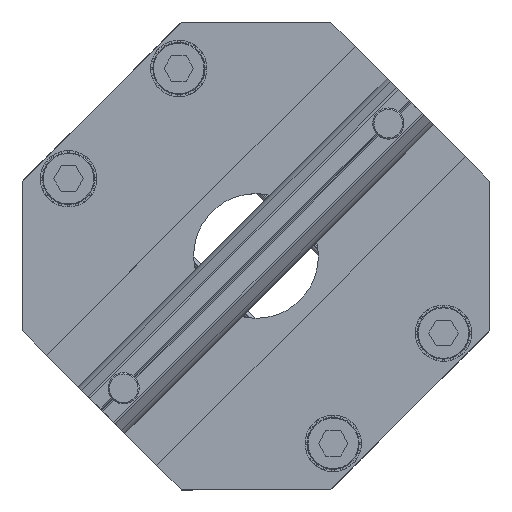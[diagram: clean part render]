
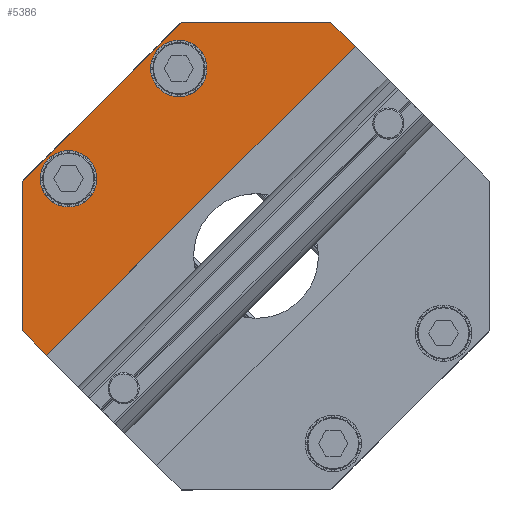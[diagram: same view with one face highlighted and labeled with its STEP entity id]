
A CAD part, top view. The second image highlights one B-rep face of the part: STEP entity #5386.
In plain terms, the highlighted planar face has unit normal (0, 0, 1).
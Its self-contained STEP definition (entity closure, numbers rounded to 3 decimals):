
#169 = ORIENTED_EDGE ( 'NONE', *, *, #4091, .T. ) ;
#181 = DIRECTION ( 'NONE',  ( 0., 0., 1. ) ) ;
#187 = AXIS2_PLACEMENT_3D ( 'NONE', #3014, #8084, #3727 ) ;
#294 = ORIENTED_EDGE ( 'NONE', *, *, #559, .T. ) ;
#559 = EDGE_CURVE ( 'NONE', #8434, #5083, #7358, .T. ) ;
#614 = VECTOR ( 'NONE', #7754, 1000. ) ;
#631 = CARTESIAN_POINT ( 'NONE',  ( -63.183, 9.53, 19.229 ) ) ;
#668 = VECTOR ( 'NONE', #5011, 1000. ) ;
#756 = VECTOR ( 'NONE', #4977, 1000. ) ;
#762 = ORIENTED_EDGE ( 'NONE', *, *, #8213, .F. ) ;
#1083 = VERTEX_POINT ( 'NONE', #3328 ) ;
#1334 = CIRCLE ( 'NONE', #1523, 2.55 ) ;
#1424 = VERTEX_POINT ( 'NONE', #6370 ) ;
#1447 = FACE_BOUND ( 'NONE', #5902, .T. ) ;
#1485 = CARTESIAN_POINT ( 'NONE',  ( -63.183, 0., 19.229 ) ) ;
#1523 = AXIS2_PLACEMENT_3D ( 'NONE', #5076, #5988, #9162 ) ;
#1631 = ORIENTED_EDGE ( 'NONE', *, *, #5245, .T. ) ;
#1723 = LINE ( 'NONE', #8198, #9393 ) ;
#1904 = ORIENTED_EDGE ( 'NONE', *, *, #3674, .T. ) ;
#2282 = AXIS2_PLACEMENT_3D ( 'NONE', #7856, #2710, #5925 ) ;
#2299 = CARTESIAN_POINT ( 'NONE',  ( -9.773, 31.12, 19.229 ) ) ;
#2444 = LINE ( 'NONE', #6311, #756 ) ;
#2535 = LINE ( 'NONE', #8435, #614 ) ;
#2710 = DIRECTION ( 'NONE',  ( 0., 0., -1. ) ) ;
#2821 = VECTOR ( 'NONE', #2886, 1000. ) ;
#2886 = DIRECTION ( 'NONE',  ( -1., 0., 0. ) ) ;
#2941 = EDGE_CURVE ( 'NONE', #7321, #7900, #2444, .T. ) ;
#3001 = CARTESIAN_POINT ( 'NONE',  ( -53.185, 9.907, 19.229 ) ) ;
#3014 = CARTESIAN_POINT ( 'NONE',  ( -38.057, 27.585, 19.229 ) ) ;
#3158 = ORIENTED_EDGE ( 'NONE', *, *, #7370, .T. ) ;
#3289 = CARTESIAN_POINT ( 'NONE',  ( -55.735, 9.907, 19.229 ) ) ;
#3328 = CARTESIAN_POINT ( 'NONE',  ( -58.285, 9.907, 19.229 ) ) ;
#3340 = ORIENTED_EDGE ( 'NONE', *, *, #7502, .T. ) ;
#3363 = CARTESIAN_POINT ( 'NONE',  ( -59.27, -18.377, 19.229 ) ) ;
#3459 = DIRECTION ( 'NONE',  ( 0.707, -0.707, 0. ) ) ;
#3510 = AXIS2_PLACEMENT_3D ( 'NONE', #3289, #8363, #4017 ) ;
#3635 = CIRCLE ( 'NONE', #2282, 2.55 ) ;
#3674 = EDGE_CURVE ( 'NONE', #7444, #1083, #1334, .T. ) ;
#3727 = DIRECTION ( 'NONE',  ( -1., 0., 0. ) ) ;
#3815 = CIRCLE ( 'NONE', #187, 2.55 ) ;
#3846 = DIRECTION ( 'NONE',  ( -0.707, -0.707, 0. ) ) ;
#4017 = DIRECTION ( 'NONE',  ( -1., 0., 0. ) ) ;
#4091 = EDGE_CURVE ( 'NONE', #5467, #1424, #3635, .T. ) ;
#4369 = CARTESIAN_POINT ( 'NONE',  ( -75.18, -2.467, 19.229 ) ) ;
#4728 = LINE ( 'NONE', #7952, #2821 ) ;
#4817 = EDGE_LOOP ( 'NONE', ( #3340, #169 ) ) ;
#4977 = DIRECTION ( 'NONE',  ( -0.707, -0.707, 0. ) ) ;
#5011 = DIRECTION ( 'NONE',  ( 0., -1., 0. ) ) ;
#5059 = AXIS2_PLACEMENT_3D ( 'NONE', #9177, #181, #9115 ) ;
#5076 = CARTESIAN_POINT ( 'NONE',  ( -55.735, 9.907, 19.229 ) ) ;
#5083 = VERTEX_POINT ( 'NONE', #3363 ) ;
#5127 = VERTEX_POINT ( 'NONE', #2299 ) ;
#5140 = CARTESIAN_POINT ( 'NONE',  ( -13.685, 35.033, 19.229 ) ) ;
#5245 = EDGE_CURVE ( 'NONE', #5127, #5276, #2535, .T. ) ;
#5276 = VERTEX_POINT ( 'NONE', #5140 ) ;
#5386 = ADVANCED_FACE ( 'NONE', ( #1447, #6949, #8877 ), #9199, .T. ) ;
#5467 = VERTEX_POINT ( 'NONE', #7783 ) ;
#5676 = ORIENTED_EDGE ( 'NONE', *, *, #2941, .T. ) ;
#5902 = EDGE_LOOP ( 'NONE', ( #7910, #1904 ) ) ;
#5925 = DIRECTION ( 'NONE',  ( -1., 0., 0. ) ) ;
#5988 = DIRECTION ( 'NONE',  ( 0., 0., -1. ) ) ;
#6260 = CARTESIAN_POINT ( 'NONE',  ( -63.183, -14.465, 19.229 ) ) ;
#6311 = CARTESIAN_POINT ( 'NONE',  ( -25.683, 47.03, 19.229 ) ) ;
#6370 = CARTESIAN_POINT ( 'NONE',  ( -40.607, 27.585, 19.229 ) ) ;
#6424 = LINE ( 'NONE', #1485, #668 ) ;
#6463 = CARTESIAN_POINT ( 'NONE',  ( -37.68, 35.033, 19.229 ) ) ;
#6917 = VECTOR ( 'NONE', #3459, 1000. ) ;
#6949 = FACE_BOUND ( 'NONE', #4817, .T. ) ;
#7321 = VERTEX_POINT ( 'NONE', #6463 ) ;
#7358 = LINE ( 'NONE', #4369, #6917 ) ;
#7370 = EDGE_CURVE ( 'NONE', #5276, #7321, #4728, .T. ) ;
#7444 = VERTEX_POINT ( 'NONE', #3001 ) ;
#7502 = EDGE_CURVE ( 'NONE', #1424, #5467, #3815, .T. ) ;
#7754 = DIRECTION ( 'NONE',  ( -0.707, 0.707, 0. ) ) ;
#7783 = CARTESIAN_POINT ( 'NONE',  ( -35.507, 27.585, 19.229 ) ) ;
#7856 = CARTESIAN_POINT ( 'NONE',  ( -38.057, 27.585, 19.229 ) ) ;
#7900 = VERTEX_POINT ( 'NONE', #631 ) ;
#7910 = ORIENTED_EDGE ( 'NONE', *, *, #8357, .T. ) ;
#7952 = CARTESIAN_POINT ( 'NONE',  ( 0., 35.033, 19.229 ) ) ;
#8084 = DIRECTION ( 'NONE',  ( 0., 0., -1. ) ) ;
#8198 = CARTESIAN_POINT ( 'NONE',  ( -20.447, 20.447, 19.229 ) ) ;
#8213 = EDGE_CURVE ( 'NONE', #5127, #5083, #1723, .T. ) ;
#8357 = EDGE_CURVE ( 'NONE', #1083, #7444, #8480, .T. ) ;
#8363 = DIRECTION ( 'NONE',  ( 0., 0., -1. ) ) ;
#8434 = VERTEX_POINT ( 'NONE', #6260 ) ;
#8435 = CARTESIAN_POINT ( 'NONE',  ( 23.815, -2.467, 19.229 ) ) ;
#8480 = CIRCLE ( 'NONE', #3510, 2.55 ) ;
#8584 = EDGE_CURVE ( 'NONE', #7900, #8434, #6424, .T. ) ;
#8820 = EDGE_LOOP ( 'NONE', ( #5676, #9130, #294, #762, #1631, #3158 ) ) ;
#8877 = FACE_OUTER_BOUND ( 'NONE', #8820, .T. ) ;
#9115 = DIRECTION ( 'NONE',  ( 1., 0., 0. ) ) ;
#9130 = ORIENTED_EDGE ( 'NONE', *, *, #8584, .T. ) ;
#9162 = DIRECTION ( 'NONE',  ( -1., 0., 0. ) ) ;
#9177 = CARTESIAN_POINT ( 'NONE',  ( 0., 0., 19.229 ) ) ;
#9199 = PLANE ( 'NONE',  #5059 ) ;
#9393 = VECTOR ( 'NONE', #3846, 1000. ) ;
